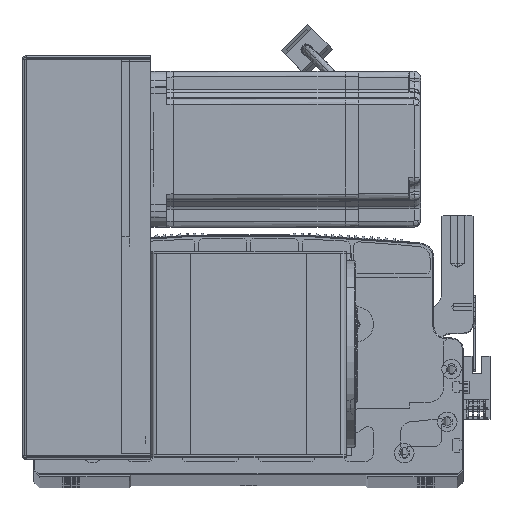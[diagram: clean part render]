
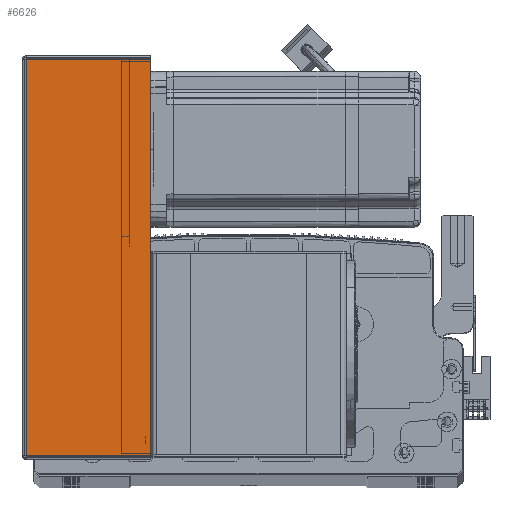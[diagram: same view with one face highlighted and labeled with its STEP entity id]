
A CAD part, top view. The second image highlights one B-rep face of the part: STEP entity #6626.
In plain terms, the highlighted planar face has unit normal (0, 0, 1) as drawn and (0, 1, 0) by its records, which use the part's own axes.
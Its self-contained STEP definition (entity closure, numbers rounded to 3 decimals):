
#6626 = ADVANCED_FACE ( 'NONE', ( #88342 ), #54203, .F. ) ;
#6806 = VERTEX_POINT ( 'NONE', #8340 ) ;
#8340 = CARTESIAN_POINT ( 'NONE',  ( 64.5, 107.5, -0.707 ) ) ;
#10451 = DIRECTION ( 'NONE',  ( 0., 0., -1. ) ) ;
#10506 = DIRECTION ( 'NONE',  ( 0., 0., -1. ) ) ;
#13564 = CARTESIAN_POINT ( 'NONE',  ( 0.737, 107.5, -203.293 ) ) ;
#17870 = ORIENTED_EDGE ( 'NONE', *, *, #26876, .F. ) ;
#19861 = VECTOR ( 'NONE', #10506, 1000. ) ;
#21536 = DIRECTION ( 'NONE',  ( 1., 0., 0. ) ) ;
#21887 = CARTESIAN_POINT ( 'NONE',  ( 0., 107.5, -0.707 ) ) ;
#21921 = CARTESIAN_POINT ( 'NONE',  ( 0., 107.5, 0. ) ) ;
#22841 = CARTESIAN_POINT ( 'NONE',  ( 0.737, 107.5, -0.707 ) ) ;
#22939 = DIRECTION ( 'NONE',  ( 1., 0., 0. ) ) ;
#23482 = VERTEX_POINT ( 'NONE', #80981 ) ;
#24834 = VECTOR ( 'NONE', #21536, 1000. ) ;
#24934 = AXIS2_PLACEMENT_3D ( 'NONE', #21921, #100593, #22939 ) ;
#26876 = EDGE_CURVE ( 'NONE', #70554, #78278, #93214, .T. ) ;
#36182 = EDGE_LOOP ( 'NONE', ( #17870, #94101, #99296, #82817 ) ) ;
#36371 = EDGE_CURVE ( 'NONE', #6806, #23482, #36859, .T. ) ;
#36859 = LINE ( 'NONE', #81213, #19861 ) ;
#37859 = CARTESIAN_POINT ( 'NONE',  ( 0., 107.5, -203.293 ) ) ;
#45347 = EDGE_CURVE ( 'NONE', #78278, #23482, #100453, .T. ) ;
#54203 = PLANE ( 'NONE',  #24934 ) ;
#58982 = VECTOR ( 'NONE', #77030, 1000. ) ;
#70554 = VERTEX_POINT ( 'NONE', #22841 ) ;
#72676 = CARTESIAN_POINT ( 'NONE',  ( 0.737, 107.5, 0. ) ) ;
#76017 = LINE ( 'NONE', #21887, #24834 ) ;
#77030 = DIRECTION ( 'NONE',  ( 1., 0., 0. ) ) ;
#78278 = VERTEX_POINT ( 'NONE', #13564 ) ;
#80981 = CARTESIAN_POINT ( 'NONE',  ( 64.5, 107.5, -203.293 ) ) ;
#81213 = CARTESIAN_POINT ( 'NONE',  ( 64.5, 107.5, -204. ) ) ;
#82817 = ORIENTED_EDGE ( 'NONE', *, *, #45347, .F. ) ;
#84707 = VECTOR ( 'NONE', #10451, 1000. ) ;
#88342 = FACE_OUTER_BOUND ( 'NONE', #36182, .T. ) ;
#90189 = EDGE_CURVE ( 'NONE', #70554, #6806, #76017, .T. ) ;
#93214 = LINE ( 'NONE', #72676, #84707 ) ;
#94101 = ORIENTED_EDGE ( 'NONE', *, *, #90189, .T. ) ;
#99296 = ORIENTED_EDGE ( 'NONE', *, *, #36371, .T. ) ;
#100453 = LINE ( 'NONE', #37859, #58982 ) ;
#100593 = DIRECTION ( 'NONE',  ( 0., -1., 0. ) ) ;
